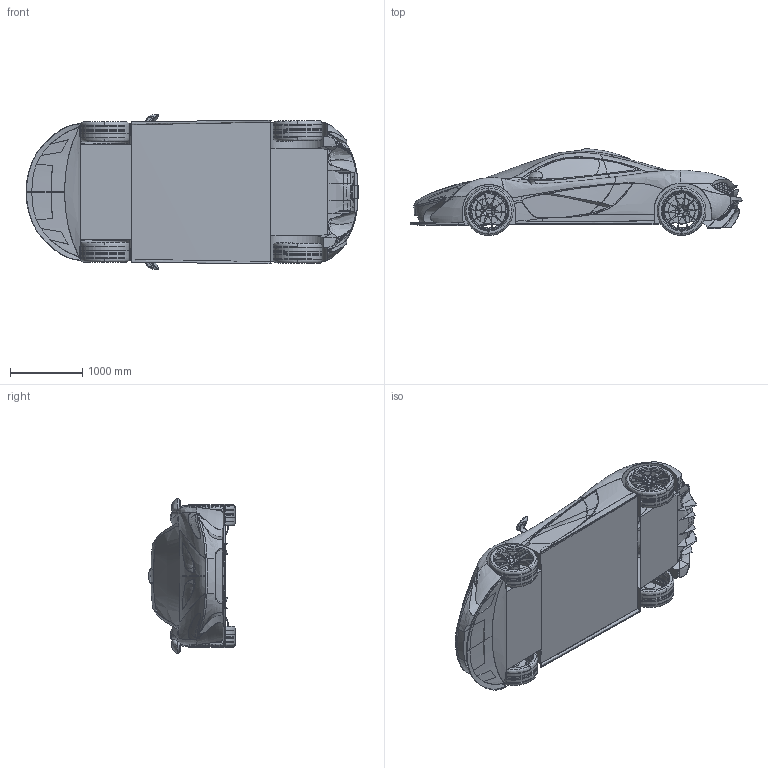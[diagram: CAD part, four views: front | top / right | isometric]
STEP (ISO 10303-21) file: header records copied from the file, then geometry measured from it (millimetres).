
FILE_DESCRIPTION (( 'STEP AP203' ), '1' );
FILE_NAME ('mclarenp11.STEP', '2014-06-10T10:13:31', ( '' ), ( '' ), 'SwSTEP 2.0', 'SolidWorks 2013', '' );
FILE_SCHEMA (( 'CONFIG_CONTROL_DESIGN' ));
Products named in the file (1): mclarenp11
Bounding box: 4585.48 x 1199.72 x 2139.65 mm (x, y, z)
Surface area: 39169423.4 mm2 (no closed solid volume)
Topology: 0 solids, 623 shells, 890 faces, 3066 edges, 2687 vertices
Faces by surface type: bspline 564, plane 142, cylinder 136, cone 48
Entity records: 112059 total; most frequent: CARTESIAN_POINT 90943, ORIENTED_EDGE 3555, EDGE_CURVE 2975, DIRECTION 2724, VERTEX_POINT 2687, B_SPLINE_CURVE_WITH_KNOTS 1417, VECTOR 1046, LINE 1046
